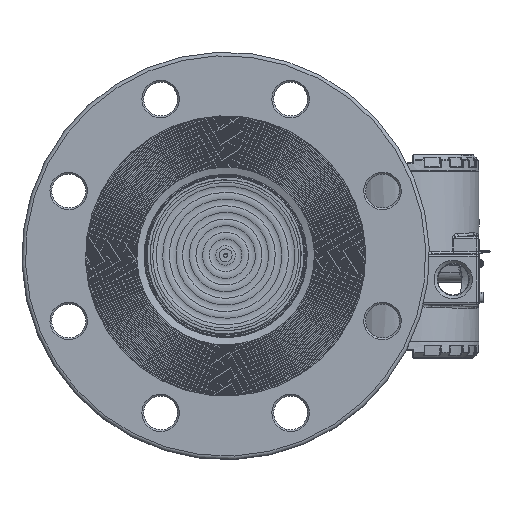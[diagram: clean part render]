
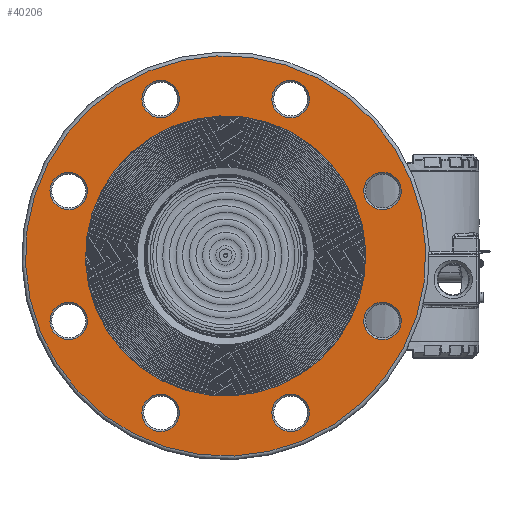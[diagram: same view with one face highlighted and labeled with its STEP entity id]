
A CAD part, top view. The second image highlights one B-rep face of the part: STEP entity #40206.
In plain terms, the highlighted planar face has unit normal (0, 0, 1).
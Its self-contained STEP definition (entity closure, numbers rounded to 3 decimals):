
#779=FACE_BOUND('',#6889,.T.);
#780=FACE_BOUND('',#6890,.T.);
#781=FACE_BOUND('',#6891,.T.);
#782=FACE_BOUND('',#6892,.T.);
#783=FACE_BOUND('',#6893,.T.);
#784=FACE_BOUND('',#6894,.T.);
#785=FACE_BOUND('',#6895,.T.);
#786=FACE_BOUND('',#6896,.T.);
#787=FACE_BOUND('',#6897,.T.);
#2860=PLANE('',#44732);
#4131=FACE_OUTER_BOUND('',#6888,.T.);
#6888=EDGE_LOOP('',(#30798));
#6889=EDGE_LOOP('',(#30799));
#6890=EDGE_LOOP('',(#30800));
#6891=EDGE_LOOP('',(#30801));
#6892=EDGE_LOOP('',(#30802));
#6893=EDGE_LOOP('',(#30803));
#6894=EDGE_LOOP('',(#30804));
#6895=EDGE_LOOP('',(#30805));
#6896=EDGE_LOOP('',(#30806));
#6897=EDGE_LOOP('',(#30807));
#12940=CIRCLE('',#44731,112.3);
#12941=CIRCLE('',#44733,10.5);
#12942=CIRCLE('',#44734,10.5);
#12943=CIRCLE('',#44735,10.5);
#12944=CIRCLE('',#44736,10.5);
#12945=CIRCLE('',#44737,78.6);
#12946=CIRCLE('',#44738,10.5);
#12947=CIRCLE('',#44739,10.5);
#12948=CIRCLE('',#44740,10.5);
#12949=CIRCLE('',#44741,10.5);
#17619=VERTEX_POINT('',#71758);
#17620=VERTEX_POINT('',#71762);
#17621=VERTEX_POINT('',#71764);
#17622=VERTEX_POINT('',#71766);
#17623=VERTEX_POINT('',#71768);
#17624=VERTEX_POINT('',#71770);
#17625=VERTEX_POINT('',#71772);
#17626=VERTEX_POINT('',#71774);
#17627=VERTEX_POINT('',#71776);
#17628=VERTEX_POINT('',#71778);
#22266=EDGE_CURVE('',#17619,#17619,#12940,.T.);
#22267=EDGE_CURVE('',#17620,#17620,#12941,.T.);
#22268=EDGE_CURVE('',#17621,#17621,#12942,.T.);
#22269=EDGE_CURVE('',#17622,#17622,#12943,.T.);
#22270=EDGE_CURVE('',#17623,#17623,#12944,.T.);
#22271=EDGE_CURVE('',#17624,#17624,#12945,.T.);
#22272=EDGE_CURVE('',#17625,#17625,#12946,.T.);
#22273=EDGE_CURVE('',#17626,#17626,#12947,.T.);
#22274=EDGE_CURVE('',#17627,#17627,#12948,.T.);
#22275=EDGE_CURVE('',#17628,#17628,#12949,.T.);
#30798=ORIENTED_EDGE('',*,*,#22266,.F.);
#30799=ORIENTED_EDGE('',*,*,#22267,.F.);
#30800=ORIENTED_EDGE('',*,*,#22268,.F.);
#30801=ORIENTED_EDGE('',*,*,#22269,.F.);
#30802=ORIENTED_EDGE('',*,*,#22270,.F.);
#30803=ORIENTED_EDGE('',*,*,#22271,.F.);
#30804=ORIENTED_EDGE('',*,*,#22272,.F.);
#30805=ORIENTED_EDGE('',*,*,#22273,.F.);
#30806=ORIENTED_EDGE('',*,*,#22274,.F.);
#30807=ORIENTED_EDGE('',*,*,#22275,.F.);
#40206=ADVANCED_FACE('',(#4131,#779,#780,#781,#782,#783,#784,#785,#786,
#787),#2860,.T.);
#44731=AXIS2_PLACEMENT_3D('',#71760,#53084,#53085);
#44732=AXIS2_PLACEMENT_3D('',#71761,#53086,#53087);
#44733=AXIS2_PLACEMENT_3D('',#71763,#53088,#53089);
#44734=AXIS2_PLACEMENT_3D('',#71765,#53090,#53091);
#44735=AXIS2_PLACEMENT_3D('',#71767,#53092,#53093);
#44736=AXIS2_PLACEMENT_3D('',#71769,#53094,#53095);
#44737=AXIS2_PLACEMENT_3D('',#71771,#53096,#53097);
#44738=AXIS2_PLACEMENT_3D('',#71773,#53098,#53099);
#44739=AXIS2_PLACEMENT_3D('',#71775,#53100,#53101);
#44740=AXIS2_PLACEMENT_3D('',#71777,#53102,#53103);
#44741=AXIS2_PLACEMENT_3D('',#71779,#53104,#53105);
#53084=DIRECTION('center_axis',(0.,0.,-1.));
#53085=DIRECTION('ref_axis',(-1.,0.,0.));
#53086=DIRECTION('center_axis',(0.,0.,1.));
#53087=DIRECTION('ref_axis',(1.,0.,0.));
#53088=DIRECTION('center_axis',(0.,0.,1.));
#53089=DIRECTION('ref_axis',(-0.707,0.707,0.));
#53090=DIRECTION('center_axis',(0.,0.,1.));
#53091=DIRECTION('ref_axis',(0.707,0.707,0.));
#53092=DIRECTION('center_axis',(0.,0.,1.));
#53093=DIRECTION('ref_axis',(-0.707,-0.707,0.));
#53094=DIRECTION('center_axis',(0.,0.,1.));
#53095=DIRECTION('ref_axis',(0.,-1.,0.));
#53096=DIRECTION('center_axis',(0.,0.,1.));
#53097=DIRECTION('ref_axis',(-1.,0.,0.));
#53098=DIRECTION('center_axis',(0.,0.,1.));
#53099=DIRECTION('ref_axis',(0.707,-0.707,0.));
#53100=DIRECTION('center_axis',(0.,0.,1.));
#53101=DIRECTION('ref_axis',(-1.,0.,0.));
#53102=DIRECTION('center_axis',(0.,0.,1.));
#53103=DIRECTION('ref_axis',(1.,0.,0.));
#53104=DIRECTION('center_axis',(0.,0.,1.));
#53105=DIRECTION('ref_axis',(0.,1.,0.));
#71758=CARTESIAN_POINT('',(112.3,0.,22.3));
#71760=CARTESIAN_POINT('Origin',(0.,0.,22.3));
#71761=CARTESIAN_POINT('Origin',(0.,0.,22.3));
#71762=CARTESIAN_POINT('',(74.777,59.927,22.3));
#71763=CARTESIAN_POINT('Origin',(67.352,67.352,22.3));
#71764=CARTESIAN_POINT('',(59.927,-74.777,22.3));
#71765=CARTESIAN_POINT('Origin',(67.352,-67.352,22.3));
#71766=CARTESIAN_POINT('',(-59.927,74.777,22.3));
#71767=CARTESIAN_POINT('Origin',(-67.352,67.352,22.3));
#71768=CARTESIAN_POINT('',(-95.25,10.5,22.3));
#71769=CARTESIAN_POINT('Origin',(-95.25,0.,22.3));
#71770=CARTESIAN_POINT('',(78.6,0.,22.3));
#71771=CARTESIAN_POINT('Origin',(0.,0.,22.3));
#71772=CARTESIAN_POINT('',(-74.777,-59.927,22.3));
#71773=CARTESIAN_POINT('Origin',(-67.352,-67.352,22.3));
#71774=CARTESIAN_POINT('',(10.5,95.25,22.3));
#71775=CARTESIAN_POINT('Origin',(0.,95.25,22.3));
#71776=CARTESIAN_POINT('',(-10.5,-95.25,22.3));
#71777=CARTESIAN_POINT('Origin',(0.,-95.25,22.3));
#71778=CARTESIAN_POINT('',(95.25,-10.5,22.3));
#71779=CARTESIAN_POINT('Origin',(95.25,0.,22.3));
